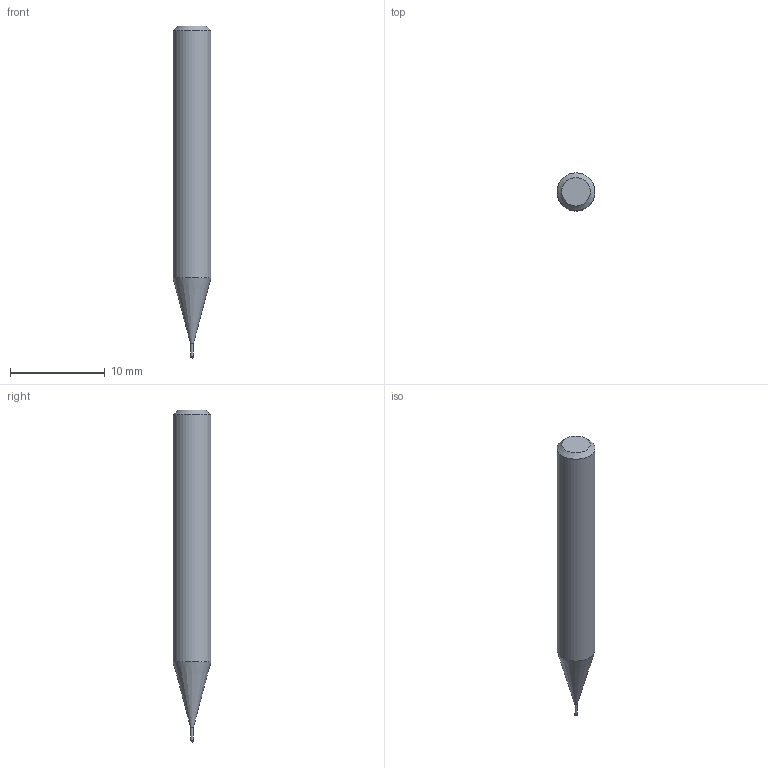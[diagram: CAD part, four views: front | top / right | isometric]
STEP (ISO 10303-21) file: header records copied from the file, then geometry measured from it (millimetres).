
FILE_DESCRIPTION((''),'2;1');
FILE_NAME('C:\Users\nsx150\AppData\Local\Temp\Mastercam 2021\QT8KEW0Y7J\TEMP.step','2021-04-23T11:20:27',(''),(''),'STEP Write','Mastercam 2021 ... CNC Software, Inc.','');
FILE_SCHEMA(('AUTOMOTIVE_DESIGN'));
Length unit declared in the file: millimetre
Products named in the file (1): None
Bounding box: 4 x 4 x 35 mm (x, y, z)
Volume: 363.6 mm3; surface area: 392.1 mm2
Topology: 2 solids, 2 shells, 9 faces, 14 edges, 8 vertices
Faces by surface type: plane 3, cylinder 3, cone 2, sphere 1
Full cylindrical faces by diameter (mm): 0.28 x1, 0.3 x1, 4 x1
Entity records: 211 total; most frequent: DIRECTION 36, CARTESIAN_POINT 25, AXIS2_PLACEMENT_3D 18, ORIENTED_EDGE 14, EDGE_LOOP 14, STYLED_ITEM 12, ADVANCED_FACE 9, FACE_BOUND 8
